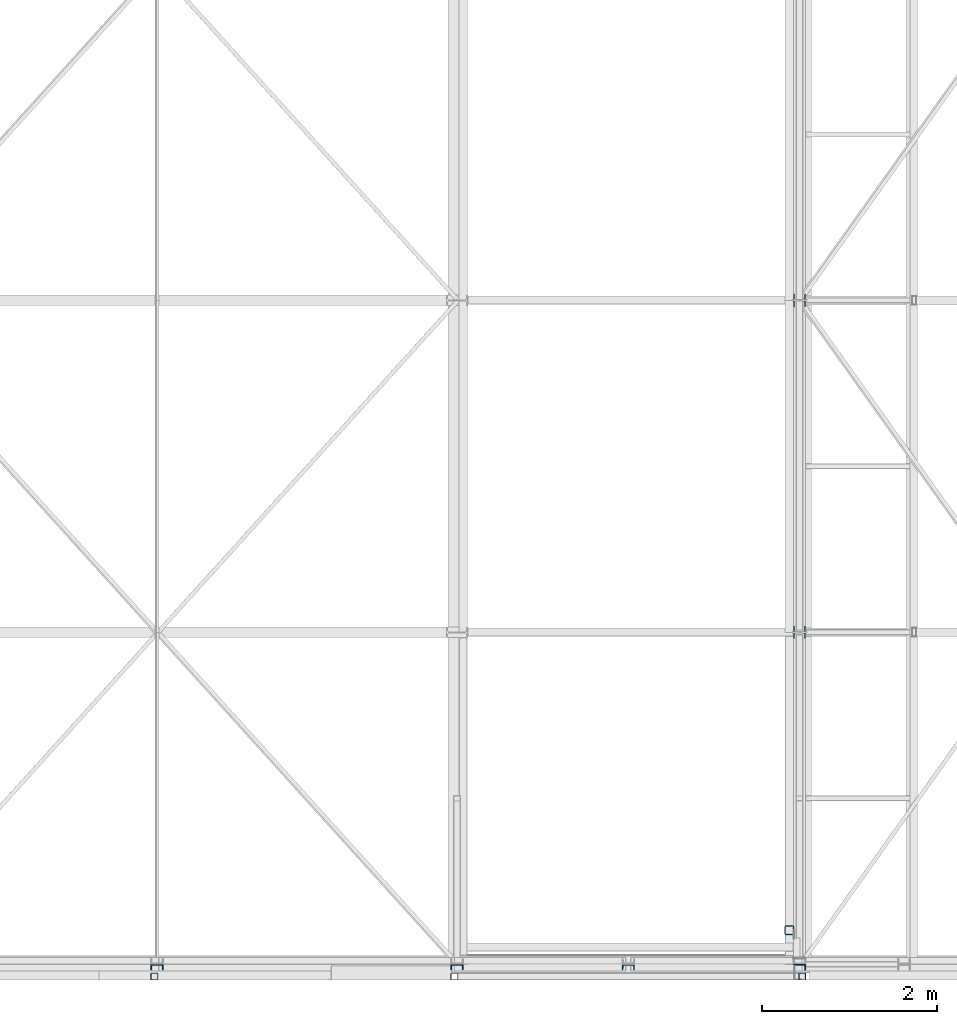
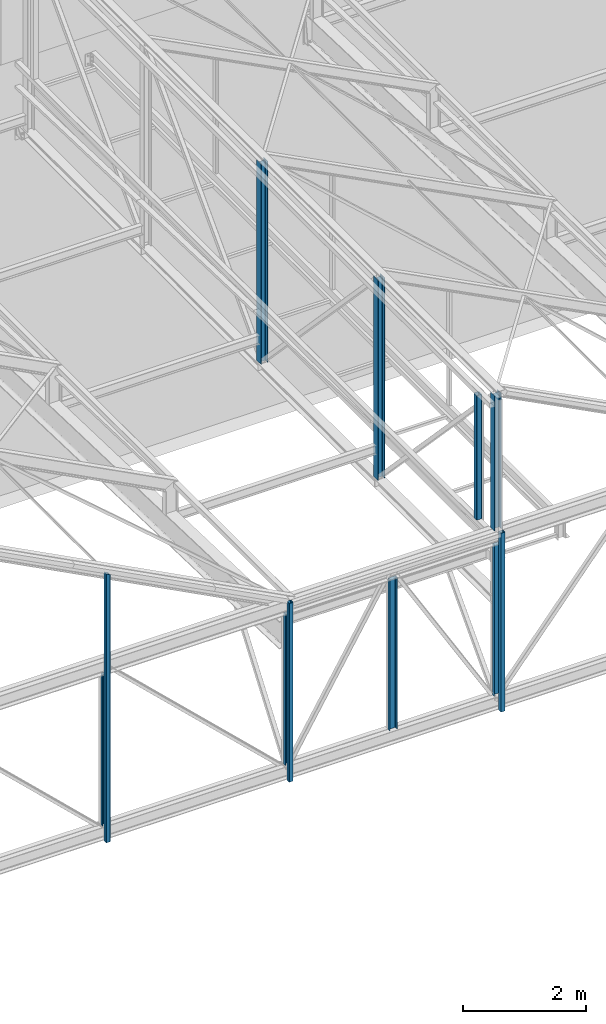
# One storey, part 6 of 123: 11 columns, 11 elements without a shape of their own.
"""IFC2X3 building model written with IfcOpenShell, lengths in millimetres."""

from ifc_helpers import new_model, si_unit, frame, origin_with_axes, origin_2d_with_axis, place, context, subcontext, project, spatial, hollow_rectangle, i_section, u_section, extrude, clip, halfspace, material, type_object, element, aggregate, save


model = new_model("IFC2X3")

# Units and contexts
model_context = context("Model", 3, precision=1e-05, world=origin_with_axes())
body_context = subcontext(model_context, "Body", "Model", "MODEL_VIEW")
ifc_project = project(units=[si_unit("LENGTHUNIT", "METRE", prefix="MILLI"), si_unit("AREAUNIT", "SQUARE_METRE"), si_unit("VOLUMEUNIT", "CUBIC_METRE"), si_unit("MASSUNIT", "GRAM", prefix="KILO"), si_unit("TIMEUNIT", "SECOND"), si_unit("PLANEANGLEUNIT", "RADIAN"), si_unit("SOLIDANGLEUNIT", "STERADIAN"), si_unit("THERMODYNAMICTEMPERATUREUNIT", "DEGREE_CELSIUS"), si_unit("LUMINOUSINTENSITYUNIT", "LUMEN")], contexts=[model_context])

# Site, building, storey
site_placement = place(None, origin_with_axes())
site = spatial("IfcSite", under=ifc_project, at=site_placement, Name="Undefined", CompositionType="ELEMENT")
building_placement = place(site_placement, origin_with_axes())
building = spatial("IfcBuilding", under=site, at=building_placement, Name="Undefined", CompositionType="ELEMENT")
storey_placement = place(building_placement, origin_with_axes())
storey = spatial("IfcBuildingStorey", under=building, at=storey_placement, Name="Undefined", CompositionType="ELEMENT", Elevation=0.0)

# Assembly, column
assembly_1_placement = place(storey_placement, origin_with_axes())
assembly_1 = element("IfcElementAssembly", 1, at=assembly_1_placement, inside=storey, Name="Steel Assembly", AssemblyPlace="NOTDEFINED", PredefinedType="RIGID_FRAME")
ifc_material_1 = material(Name="STEEL/S235-E24")
column_type_1 = type_object("IfcColumnType", Name="TUBE-C-80*80*4", PredefinedType="NOTDEFINED")
column_1_placement = place(assembly_1_placement, frame((23500.0, -140.0, 5000.0), z_axis=(0.0, 0.0, 1.0), x_axis=(0.0, 1.0, 0.0)))
column_1 = element("IfcColumn", 2, at=column_1_placement, type_object=column_type_1, material=ifc_material_1, Name="MONTANT BARDAGE", ObjectType="TUBE-C-80*80*4", context=body_context, shape_type="SweptSolid", body=[
    extrude(hollow_rectangle(XDim=80.0, YDim=80.0, WallThickness=4.0, InnerFilletRadius=4.0, OuterFilletRadius=8.0, at=origin_2d_with_axis()), frame((0.0, 0.0, 3550.0), z_axis=(0.0, 0.0, -1.0), x_axis=(0.0, 1.0, 0.0)), (0.0, 0.0, 1.0), 3550.0),
])
aggregate(assembly_1, [column_1])

assembly_2_placement = place(storey_placement, origin_with_axes())
assembly_2 = element("IfcElementAssembly", 3, at=assembly_2_placement, inside=storey, Name="Steel Assembly", AssemblyPlace="NOTDEFINED", PredefinedType="RIGID_FRAME")
column_2_placement = place(assembly_2_placement, frame((16085.0, -140.0, 5000.0), z_axis=(0.0, 0.0, 1.0), x_axis=(0.0, 1.0, 0.0)))
column_2 = element("IfcColumn", 4, at=column_2_placement, type_object=column_type_1, material=ifc_material_1, Name="MONTANT BARDAGE", ObjectType="TUBE-C-80*80*4", context=body_context, shape_type="Clipping", body=[
    clip(extrude(hollow_rectangle(XDim=80.0, YDim=80.0, WallThickness=4.0, InnerFilletRadius=4.0, OuterFilletRadius=8.0, at=origin_2d_with_axis()), frame((0.0, 0.0, 5340.54554048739), z_axis=(0.0, 0.0, -1.0), x_axis=(0.0, 1.0, 0.0)), (0.0, 0.0, 1.0), 5340.5), halfspace(frame((3940.0, 27.2044724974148, 5333.64267783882), z_axis=(0.0, 0.46352846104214, -0.886082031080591), x_axis=(-1.0, 0.0, 0.0)), True)),
])
aggregate(assembly_2, [column_2])

assembly_3_placement = place(storey_placement, origin_with_axes())
assembly_3 = element("IfcElementAssembly", 5, at=assembly_3_placement, inside=storey, Name="Steel Assembly", AssemblyPlace="NOTDEFINED", PredefinedType="RIGID_FRAME")
column_3_placement = place(assembly_3_placement, frame((19520.0, -140.0, 5000.0), z_axis=(0.0, 0.0, 1.0), x_axis=(0.0, 1.0, 0.0)))
column_3 = element("IfcColumn", 6, at=column_3_placement, type_object=column_type_1, material=ifc_material_1, Name="MONTANT BARDAGE", ObjectType="TUBE-C-80*80*4", context=body_context, shape_type="SweptSolid", body=[
    extrude(hollow_rectangle(XDim=80.0, YDim=80.0, WallThickness=4.0, InnerFilletRadius=4.0, OuterFilletRadius=8.0, at=origin_2d_with_axis()), frame((0.0, 0.0, 3550.0), z_axis=(0.0, 0.0, -1.0), x_axis=(0.0, 1.0, 0.0)), (0.0, 0.0, 1.0), 3550.0),
])
aggregate(assembly_3, [column_3])

assembly_4_placement = place(storey_placement, origin_with_axes())
assembly_4 = element("IfcElementAssembly", 7, at=assembly_4_placement, inside=storey, Name="Steel Assembly", AssemblyPlace="NOTDEFINED", PredefinedType="RIGID_FRAME")
ifc_material_2 = material(Name="STEEL/S275-E28")
column_type_2 = type_object("IfcColumnType", Name="UPN140", PredefinedType="NOTDEFINED")
column_4_placement = place(assembly_4_placement, frame((21510.0, -35.0, 5260.0), z_axis=(0.0, 0.0, 1.0), x_axis=(-1.0, 0.0, 0.0)))
column_4 = element("IfcColumn", 8, at=column_4_placement, type_object=column_type_2, material=ifc_material_2, Name="MONTANT", ObjectType="UPN140", context=body_context, shape_type="SweptSolid", body=[
    extrude(u_section(Depth=140.0, FlangeWidth=60.0, WebThickness=7.0, FlangeThickness=10.0, FilletRadius=10.0, EdgeRadius=5.0, FlangeSlope=0.0798299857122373, at=origin_2d_with_axis()), frame((0.0, 0.0, 3009.99444626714), z_axis=(0.0, 0.0, -1.0), x_axis=(0.0, 1.0, 0.0)), (0.0, 0.0, 1.0), 3010.0),
])
aggregate(assembly_4, [column_4])

assembly_5_placement = place(storey_placement, origin_with_axes())
assembly_5 = element("IfcElementAssembly", 9, at=assembly_5_placement, inside=storey, Name="Steel Assembly", AssemblyPlace="NOTDEFINED", PredefinedType="RIGID_FRAME")
column_5_placement = place(assembly_5_placement, frame((23470.0, -35.0, 5260.0), z_axis=(0.0, 0.0, 1.0), x_axis=(-1.0, 0.0, 0.0)))
column_5 = element("IfcColumn", 10, at=column_5_placement, type_object=column_type_2, material=ifc_material_2, Name="MONTANT", ObjectType="UPN140", context=body_context, shape_type="SweptSolid", body=[
    extrude(u_section(Depth=140.0, FlangeWidth=60.0, WebThickness=7.0, FlangeThickness=10.0, FilletRadius=10.0, EdgeRadius=5.0, FlangeSlope=0.0798299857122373, at=origin_2d_with_axis()), frame((0.0, 0.0, 3009.99444626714), z_axis=(0.0, 0.0, -1.0), x_axis=(0.0, 1.0, 0.0)), (0.0, 0.0, 1.0), 3010.0),
])
aggregate(assembly_5, [column_5])

assembly_6_placement = place(storey_placement, origin_with_axes())
assembly_6 = element("IfcElementAssembly", 11, at=assembly_6_placement, inside=storey, Name="Steel Assembly", AssemblyPlace="NOTDEFINED", PredefinedType="RIGID_FRAME")
column_6_placement = place(assembly_6_placement, frame((19550.0, -35.0, 5260.0), z_axis=(0.0, 0.0, 1.0), x_axis=(-1.0, 0.0, 0.0)))
column_6 = element("IfcColumn", 12, at=column_6_placement, type_object=column_type_2, material=ifc_material_2, Name="MONTANT", ObjectType="UPN140", context=body_context, shape_type="SweptSolid", body=[
    extrude(u_section(Depth=140.0, FlangeWidth=60.0, WebThickness=7.0, FlangeThickness=10.0, FilletRadius=10.0, EdgeRadius=5.0, FlangeSlope=0.0798299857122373, at=origin_2d_with_axis()), frame((0.0, 0.0, 3009.99444626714), z_axis=(0.0, 0.0, -1.0), x_axis=(0.0, 1.0, 0.0)), (0.0, 0.0, 1.0), 3010.0),
])
aggregate(assembly_6, [column_6])

assembly_7_placement = place(storey_placement, origin_with_axes())
assembly_7 = element("IfcElementAssembly", 13, at=assembly_7_placement, inside=storey, Name="Steel Assembly", AssemblyPlace="NOTDEFINED", PredefinedType="RIGID_FRAME")
column_7_placement = place(assembly_7_placement, frame((16115.0, -35.0, 5260.0), z_axis=(0.0, 0.0, 1.0), x_axis=(-1.0, 0.0, 0.0)))
column_7 = element("IfcColumn", 14, at=column_7_placement, type_object=column_type_2, material=ifc_material_2, Name="MONTANT", ObjectType="UPN140", context=body_context, shape_type="SweptSolid", body=[
    extrude(u_section(Depth=140.0, FlangeWidth=60.0, WebThickness=7.0, FlangeThickness=10.0, FilletRadius=10.0, EdgeRadius=5.0, FlangeSlope=0.0798299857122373, at=origin_2d_with_axis()), frame((0.0, 0.0, 3009.99444626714), z_axis=(0.0, 0.0, -1.0), x_axis=(0.0, 1.0, 0.0)), (0.0, 0.0, 1.0), 3010.0),
])
aggregate(assembly_7, [column_7])

assembly_8_placement = place(storey_placement, origin_with_axes())
assembly_8 = element("IfcElementAssembly", 15, at=assembly_8_placement, inside=storey, Name="Steel Assembly", AssemblyPlace="NOTDEFINED", PredefinedType="RIGID_FRAME")
column_type_3 = type_object("IfcColumnType", Name="HEA140", PredefinedType="NOTDEFINED")
column_8_placement = place(assembly_8_placement, frame((23470.0, 3800.0, 7250.0), z_axis=(0.0, 0.0, 1.0), x_axis=(-1.0, 0.0, 0.0)))
column_8 = element("IfcColumn", 16, at=column_8_placement, type_object=column_type_3, material=ifc_material_2, Name="MONTANT", ObjectType="HEA140", context=body_context, shape_type="SweptSolid", body=[
    extrude(i_section(OverallWidth=140.0, OverallDepth=133.0, WebThickness=5.5, FlangeThickness=8.5, FilletRadius=12.0, at=origin_2d_with_axis()), frame((0.0, 0.0, 3986.0), z_axis=(0.0, 0.0, -1.0), x_axis=(0.0, 1.0, 0.0)), (0.0, 0.0, 1.0), 3986.0),
])
aggregate(assembly_8, [column_8])

assembly_9_placement = place(storey_placement, origin_with_axes())
assembly_9 = element("IfcElementAssembly", 17, at=assembly_9_placement, inside=storey, Name="Steel Assembly", AssemblyPlace="NOTDEFINED", PredefinedType="RIGID_FRAME")
column_9_placement = place(assembly_9_placement, frame((23470.0, 7600.0, 7250.0), z_axis=(0.0, 0.0, 1.0), x_axis=(-1.0, 0.0, 0.0)))
column_9 = element("IfcColumn", 18, at=column_9_placement, type_object=column_type_3, material=ifc_material_2, Name="MONTANT", ObjectType="HEA140", context=body_context, shape_type="SweptSolid", body=[
    extrude(i_section(OverallWidth=140.0, OverallDepth=133.0, WebThickness=5.5, FlangeThickness=8.5, FilletRadius=12.0, at=origin_2d_with_axis()), frame((0.0, 0.0, 3986.0), z_axis=(0.0, 0.0, -1.0), x_axis=(0.0, 1.0, 0.0)), (0.0, 0.0, 1.0), 3986.0),
])
aggregate(assembly_9, [column_9])

assembly_10_placement = place(storey_placement, origin_with_axes())
assembly_10 = element("IfcElementAssembly", 19, at=assembly_10_placement, inside=storey, Name="Steel Assembly", AssemblyPlace="NOTDEFINED", PredefinedType="RIGID_FRAME")
column_10_placement = place(assembly_10_placement, frame((23470.0, 0.0, 8550.0), z_axis=(0.0, 0.0, 1.0), x_axis=(-1.0, 0.0, 0.0)))
column_10 = element("IfcColumn", 20, at=column_10_placement, type_object=column_type_3, material=ifc_material_2, Name="MONTANT", ObjectType="HEA140", context=body_context, shape_type="SweptSolid", body=[
    extrude(i_section(OverallWidth=140.0, OverallDepth=133.0, WebThickness=5.5, FlangeThickness=8.5, FilletRadius=12.0, at=origin_2d_with_axis()), frame((0.0, 0.0, 2686.0), z_axis=(0.0, 0.0, -1.0), x_axis=(0.0, 1.0, 0.0)), (0.0, 0.0, 1.0), 2686.0),
])
aggregate(assembly_10, [column_10])

assembly_11_placement = place(storey_placement, origin_with_axes())
assembly_11 = element("IfcElementAssembly", 21, at=assembly_11_placement, inside=storey, Name="Steel Assembly", AssemblyPlace="NOTDEFINED", PredefinedType="RIGID_FRAME")
column_type_4 = type_object("IfcColumnType", Name="TUBE-C-100*100*4", PredefinedType="NOTDEFINED")
column_11_placement = place(assembly_11_placement, frame((23353.5001166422, 390.00007876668, 8550.00000000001), z_axis=(0.0, 0.0, 1.0), x_axis=(0.0, -1.0, 0.0)))
column_11 = element("IfcColumn", 22, at=column_11_placement, type_object=column_type_4, material=ifc_material_1, Name="MONTANT", ObjectType="TUBE-C-100*100*4", context=body_context, shape_type="SweptSolid", body=[
    extrude(hollow_rectangle(XDim=100.0, YDim=100.0, WallThickness=4.0, InnerFilletRadius=4.0, OuterFilletRadius=8.0, at=origin_2d_with_axis()), frame((0.0, 0.0, 2470.0), z_axis=(0.0, 0.0, -1.0), x_axis=(0.0, 1.0, 0.0)), (0.0, 0.0, 1.0), 2470.0),
])
aggregate(assembly_11, [column_11])

save(model, "model.ifc")
